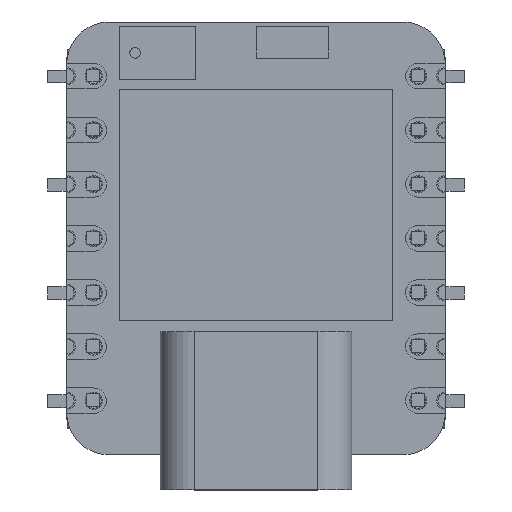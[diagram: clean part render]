
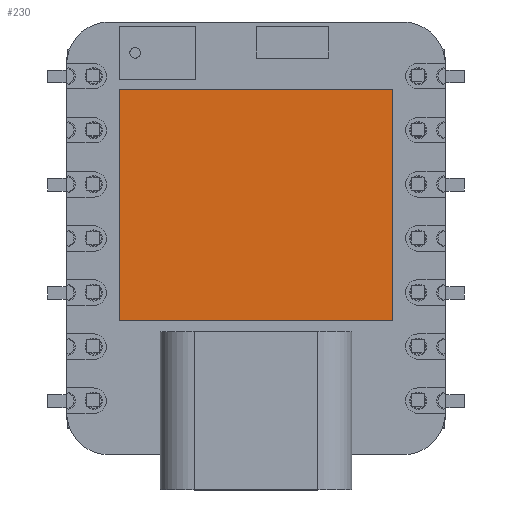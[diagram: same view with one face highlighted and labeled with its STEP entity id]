
A CAD part, top view. The second image highlights one B-rep face of the part: STEP entity #230.
In plain terms, the highlighted planar face has unit normal (0, 0, 1).
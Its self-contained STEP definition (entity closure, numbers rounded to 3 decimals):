
#101 = VERTEX_POINT('',#102);
#102 = CARTESIAN_POINT('',(-6.425,7.01,3.));
#108 = EDGE_CURVE('',#101,#109,#111,.T.);
#109 = VERTEX_POINT('',#110);
#110 = CARTESIAN_POINT('',(-6.425,-3.84,3.));
#111 = LINE('',#112,#113);
#112 = CARTESIAN_POINT('',(-6.425,7.01,3.));
#113 = VECTOR('',#114,1.);
#114 = DIRECTION('',(0.,-1.,0.));
#139 = EDGE_CURVE('',#109,#140,#142,.T.);
#140 = VERTEX_POINT('',#141);
#141 = CARTESIAN_POINT('',(6.425,-3.84,3.));
#142 = LINE('',#143,#144);
#143 = CARTESIAN_POINT('',(-6.425,-3.84,3.));
#144 = VECTOR('',#145,1.);
#145 = DIRECTION('',(1.,0.,0.));
#170 = EDGE_CURVE('',#140,#171,#173,.T.);
#171 = VERTEX_POINT('',#172);
#172 = CARTESIAN_POINT('',(6.425,7.01,3.));
#173 = LINE('',#174,#175);
#174 = CARTESIAN_POINT('',(6.425,-3.84,3.));
#175 = VECTOR('',#176,1.);
#176 = DIRECTION('',(0.,1.,0.));
#201 = EDGE_CURVE('',#171,#101,#202,.T.);
#202 = LINE('',#203,#204);
#203 = CARTESIAN_POINT('',(6.425,7.01,3.));
#204 = VECTOR('',#205,1.);
#205 = DIRECTION('',(-1.,0.,0.));
#230 = ADVANCED_FACE('',(#231),#237,.T.);
#231 = FACE_BOUND('',#232,.T.);
#232 = EDGE_LOOP('',(#233,#234,#235,#236));
#233 = ORIENTED_EDGE('',*,*,#108,.T.);
#234 = ORIENTED_EDGE('',*,*,#139,.T.);
#235 = ORIENTED_EDGE('',*,*,#170,.T.);
#236 = ORIENTED_EDGE('',*,*,#201,.T.);
#237 = PLANE('',#238);
#238 = AXIS2_PLACEMENT_3D('',#239,#240,#241);
#239 = CARTESIAN_POINT('',(0.,1.585,3.));
#240 = DIRECTION('',(0.,0.,1.));
#241 = DIRECTION('',(1.,0.,-0.));
